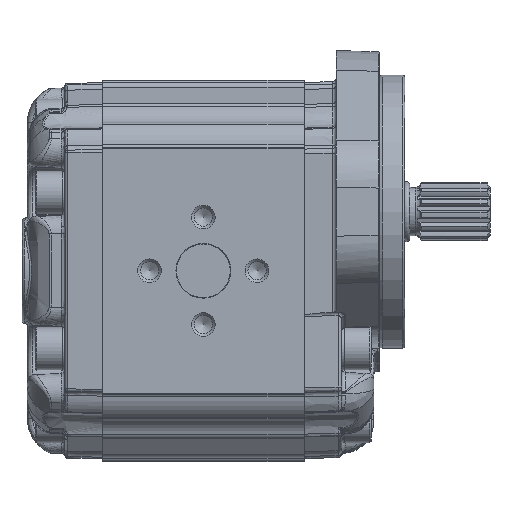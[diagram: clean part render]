
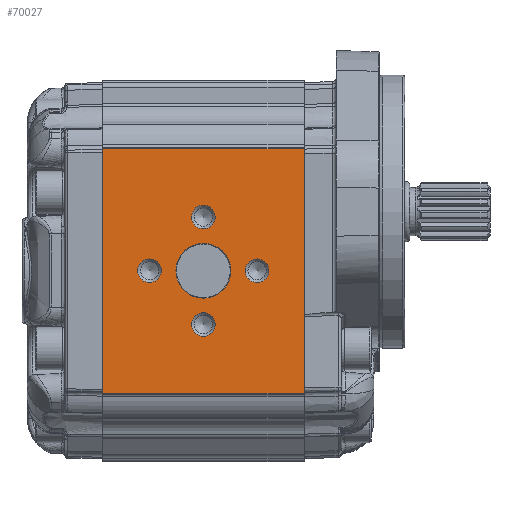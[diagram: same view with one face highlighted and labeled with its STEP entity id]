
A CAD part, left-side view. The second image highlights one B-rep face of the part: STEP entity #70027.
In plain terms, the highlighted planar face has unit normal (-1, 0, 0) as drawn and (1, 0, 0) by its records, which use the part's own axes.
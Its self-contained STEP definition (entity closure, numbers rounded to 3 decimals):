
#8105=LINE('',#122467,#10119);
#8116=LINE('',#122551,#10130);
#8162=LINE('',#122717,#10176);
#8163=LINE('',#122718,#10177);
#10119=VECTOR('',#77549,1000.);
#10130=VECTOR('',#77624,1000.);
#10176=VECTOR('',#77802,1000.);
#10177=VECTOR('',#77803,1000.);
#16526=ORIENTED_EDGE('',*,*,#29327,.T.);
#16527=ORIENTED_EDGE('',*,*,#29328,.T.);
#16528=ORIENTED_EDGE('',*,*,#29329,.T.);
#16529=ORIENTED_EDGE('',*,*,#29330,.T.);
#16530=ORIENTED_EDGE('',*,*,#29331,.T.);
#16531=ORIENTED_EDGE('',*,*,#29202,.F.);
#16532=ORIENTED_EDGE('',*,*,#29332,.T.);
#16533=ORIENTED_EDGE('',*,*,#29244,.F.);
#16534=ORIENTED_EDGE('',*,*,#29333,.T.);
#29202=EDGE_CURVE('',#35928,#35929,#8105,.T.);
#29244=EDGE_CURVE('',#35970,#35971,#8116,.T.);
#29327=EDGE_CURVE('',#36019,#36019,#39824,.F.);
#29328=EDGE_CURVE('',#36020,#36020,#39825,.F.);
#29329=EDGE_CURVE('',#36021,#36021,#39826,.F.);
#29330=EDGE_CURVE('',#36022,#36022,#39827,.F.);
#29331=EDGE_CURVE('',#36023,#36023,#39828,.F.);
#29332=EDGE_CURVE('',#35928,#35971,#8162,.F.);
#29333=EDGE_CURVE('',#35970,#35929,#8163,.F.);
#35928=VERTEX_POINT('',#122466);
#35929=VERTEX_POINT('',#122468);
#35970=VERTEX_POINT('',#122552);
#35971=VERTEX_POINT('',#122553);
#36019=VERTEX_POINT('',#122708);
#36020=VERTEX_POINT('',#122710);
#36021=VERTEX_POINT('',#122712);
#36022=VERTEX_POINT('',#122714);
#36023=VERTEX_POINT('',#122716);
#39824=CIRCLE('',#73302,4.4);
#39825=CIRCLE('',#73303,4.4);
#39826=CIRCLE('',#73304,4.4);
#39827=CIRCLE('',#73305,4.4);
#39828=CIRCLE('',#73306,10.2);
#41152=EDGE_LOOP('',(#16526));
#41153=EDGE_LOOP('',(#16527));
#41154=EDGE_LOOP('',(#16528));
#41155=EDGE_LOOP('',(#16529));
#41156=EDGE_LOOP('',(#16530));
#41157=EDGE_LOOP('',(#16531,#16532,#16533,#16534));
#44498=FACE_BOUND('',#41152,.T.);
#44499=FACE_BOUND('',#41153,.T.);
#44500=FACE_BOUND('',#41154,.T.);
#44501=FACE_BOUND('',#41155,.T.);
#44502=FACE_BOUND('',#41156,.T.);
#44503=FACE_BOUND('',#41157,.T.);
#46937=PLANE('',#73301);
#70027=ADVANCED_FACE('',(#44498,#44499,#44500,#44501,#44502,#44503),#46937,
 .T.);
#73301=AXIS2_PLACEMENT_3D('',#122706,#77790,#77791);
#73302=AXIS2_PLACEMENT_3D('',#122707,#77792,#77793);
#73303=AXIS2_PLACEMENT_3D('',#122709,#77794,#77795);
#73304=AXIS2_PLACEMENT_3D('',#122711,#77796,#77797);
#73305=AXIS2_PLACEMENT_3D('',#122713,#77798,#77799);
#73306=AXIS2_PLACEMENT_3D('',#122715,#77800,#77801);
#77549=DIRECTION('',(0.,0.,-1.));
#77624=DIRECTION('',(0.,0.,1.));
#77790=DIRECTION('',(1.,0.,0.));
#77791=DIRECTION('',(0.,0.,1.));
#77792=DIRECTION('',(1.,0.,0.));
#77793=DIRECTION('',(0.,0.,1.));
#77794=DIRECTION('',(1.,0.,0.));
#77795=DIRECTION('',(0.,0.,1.));
#77796=DIRECTION('',(1.,0.,0.));
#77797=DIRECTION('',(0.,0.,1.));
#77798=DIRECTION('',(1.,0.,0.));
#77799=DIRECTION('',(0.,0.,1.));
#77800=DIRECTION('',(1.,0.,0.));
#77801=DIRECTION('',(0.,0.,1.));
#77802=DIRECTION('',(0.,1.,0.));
#77803=DIRECTION('',(0.,-1.,0.));
#122466=CARTESIAN_POINT('',(57.5,75.,45.5));
#122467=CARTESIAN_POINT('',(57.5,75.,91.388));
#122468=CARTESIAN_POINT('',(57.5,75.,-45.5));
#122551=CARTESIAN_POINT('',(57.5,0.,-44.978));
#122552=CARTESIAN_POINT('',(57.5,0.,-45.5));
#122553=CARTESIAN_POINT('',(57.5,0.,45.5));
#122706=CARTESIAN_POINT('',(57.5,-149.417,91.388));
#122707=CARTESIAN_POINT('',(57.5,37.5,20.));
#122708=CARTESIAN_POINT('',(57.5,37.5,24.4));
#122709=CARTESIAN_POINT('',(57.5,17.5,0.));
#122710=CARTESIAN_POINT('',(57.5,17.5,4.4));
#122711=CARTESIAN_POINT('',(57.5,37.5,-20.));
#122712=CARTESIAN_POINT('',(57.5,37.5,-15.6));
#122713=CARTESIAN_POINT('',(57.5,57.5,0.));
#122714=CARTESIAN_POINT('',(57.5,57.5,4.4));
#122715=CARTESIAN_POINT('',(57.5,37.5,0.));
#122716=CARTESIAN_POINT('',(57.5,37.5,10.2));
#122717=CARTESIAN_POINT('',(57.5,-149.417,45.5));
#122718=CARTESIAN_POINT('',(57.5,-149.417,-45.5));
